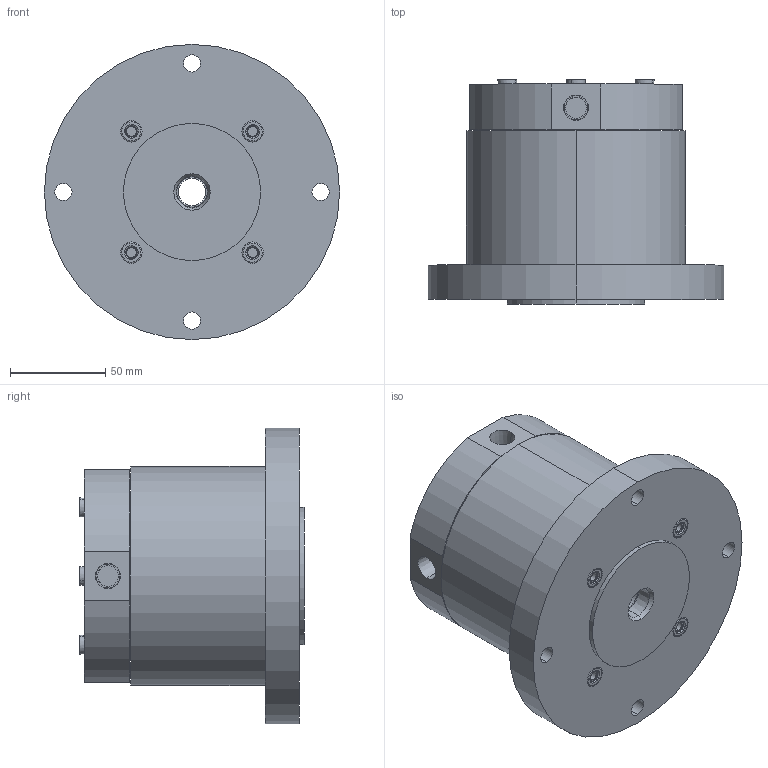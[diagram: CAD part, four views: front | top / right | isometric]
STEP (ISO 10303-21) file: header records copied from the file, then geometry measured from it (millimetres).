
FILE_DESCRIPTION((' '),'2;1');
FILE_NAME( 'PTMB04.x_t.stp', '2025-01-06T11:27:59', (' '), ('--- Datakit www.datakit.com---'), ' Datakit CrossCadWare V2024.1 Dec 21 2023', 'Mastercam 2025', ' ');
FILE_SCHEMA(('AUTOMOTIVE_DESIGN { 1 0 10303 214 1 1 1 1 }'));
Length unit declared in the file: millimetre
Products named in the file (1): PTMB04
Bounding box: 155 x 117.73 x 155 mm (x, y, z)
Volume: 1291009 mm3; surface area: 119865.2 mm2
Topology: 8 solids, 10 shells, 264 faces, 638 edges, 432 vertices
Faces by surface type: cylinder 98, plane 94, cone 40, torus 32
Entity records: 8351 total; most frequent: CARTESIAN_POINT 1567, DIRECTION 1528, ORIENTED_EDGE 1276, AXIS2_PLACEMENT_3D 649, EDGE_CURVE 638, VERTEX_POINT 432, CIRCLE 384, EDGE_LOOP 330
